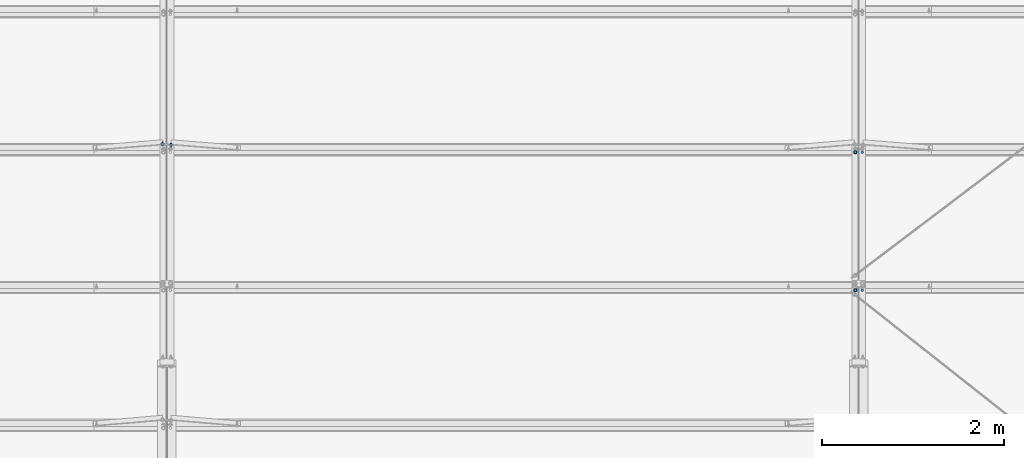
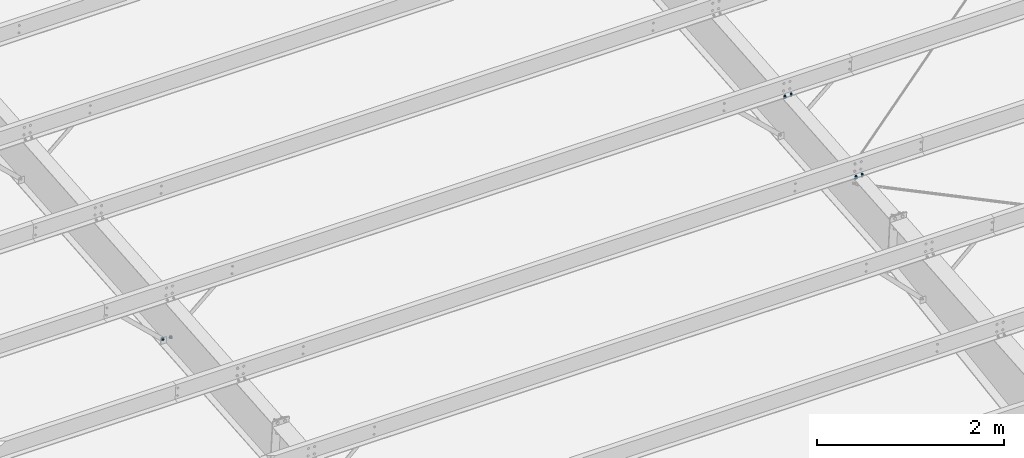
# One storey, part 138 of 185: 6 mechanical fasteners, 4 elements without a shape of their own.
"""IFC2X3 building model written with IfcOpenShell, lengths in millimetres."""

from ifc_helpers import new_model, si_unit, frame, origin_with_axes, origin_2d_with_axis, place, context, subcontext, project, spatial, polyline, circle, outline, extrude, source, transform, mapped, material, type_object, element, aggregate, save


model = new_model("IFC2X3")

# Units and contexts
model_context = context("Model", 3, precision=1e-05, world=origin_with_axes())
body_context = subcontext(model_context, "Body", "Model", "MODEL_VIEW")
ifc_project = project(units=[si_unit("LENGTHUNIT", "METRE", prefix="MILLI"), si_unit("AREAUNIT", "SQUARE_METRE"), si_unit("VOLUMEUNIT", "CUBIC_METRE"), si_unit("MASSUNIT", "GRAM", prefix="KILO"), si_unit("TIMEUNIT", "SECOND"), si_unit("PLANEANGLEUNIT", "RADIAN"), si_unit("SOLIDANGLEUNIT", "STERADIAN"), si_unit("THERMODYNAMICTEMPERATUREUNIT", "DEGREE_CELSIUS"), si_unit("LUMINOUSINTENSITYUNIT", "LUMEN")], contexts=[model_context])

# Site, building, storey
site_placement = place(None, origin_with_axes())
site = spatial("IfcSite", under=ifc_project, at=site_placement, Name="Undefined", CompositionType="ELEMENT")
building_placement = place(site_placement, origin_with_axes())
building = spatial("IfcBuilding", under=site, at=building_placement, Name="Undefined", CompositionType="ELEMENT")
storey_placement = place(building_placement, origin_with_axes())
storey = spatial("IfcBuildingStorey", under=building, at=storey_placement, Name="Undefined", CompositionType="ELEMENT", Elevation=0.0)

# Assembly, mechanical fastener
assembly_1_placement = place(storey_placement, origin_with_axes())
assembly_1 = element("IfcElementAssembly", 1, at=assembly_1_placement, inside=storey, Name="Steel Assembly", AssemblyPlace="NOTDEFINED", PredefinedType="RIGID_FRAME")
ifc_material = material(Name="Undefined")
discrete_accessory_type = type_object("IfcDiscreteAccessoryType", Name="Bolt assembly")
shared_shape_1 = source(origin_with_axes(), body_context, "Body", "SweptSolid", [
    extrude(circle(Radius=7.14374971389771, at=origin_2d_with_axis()), frame((0.0, -1.59000001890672, 0.0), z_axis=(0.0, 1.0, 0.0), x_axis=(1.0, 0.0, 0.0)), (0.0, 0.0, 1.0), 1.7),
    extrude(outline(polyline([(10.9985221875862, 0.0), (5.4992610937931, 9.52499961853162), (-5.4992610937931, 9.52499961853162), (-10.9985221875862, 0.0), (-5.4992610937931, -9.52499961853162), (5.4992610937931, -9.52499961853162), (10.9985221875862, 0.0)])), frame((0.0, -15.0837496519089, 0.0), z_axis=(0.0, 1.0, 0.0), x_axis=(1.0, 0.0, 0.0)), (0.0, 0.0, 1.0), 9.5),
    extrude(circle(Radius=6.34999990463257, at=origin_2d_with_axis()), frame((0.0, -5.5587500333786, 0.0), z_axis=(0.0, 1.0, 0.0), x_axis=(1.0, 0.0, 0.0)), (0.0, 0.0, 1.0), 38.1),
    extrude(circle(Radius=13.4937496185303, at=origin_2d_with_axis()), frame((0.0, -5.5587500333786, 0.0), z_axis=(0.0, 1.0, 0.0), x_axis=(1.0, 0.0, 0.0)), (0.0, 0.0, 1.0), 4.0),
    extrude(circle(Radius=22.2250003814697, at=origin_2d_with_axis()), frame((0.0, 0.0, 0.0), z_axis=(0.0, 1.0, 0.0), x_axis=(1.0, 0.0, 0.0)), (0.0, 0.0, 1.0), 7.9),
    extrude(outline(polyline([(12.8316099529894, 0.0), (6.4158049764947, 11.1125001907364), (-6.4158049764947, 11.1125001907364), (-12.8316099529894, 0.0), (-6.4158049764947, -11.1125001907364), (6.4158049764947, -11.1125001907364), (12.8316099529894, 0.0)])), frame((0.0, 7.93750000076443, 0.0), z_axis=(0.0, 1.0, 0.0), x_axis=(1.0, 0.0, 0.0)), (0.0, 0.0, 1.0), 12.3),
])
mechanical_fastener_1_placement = place(assembly_1_placement, frame((22525.8744956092, 8167.66653030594, 6014.27804869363), z_axis=(0.697745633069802, 0.0594892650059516, -0.713871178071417), x_axis=(0.716345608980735, -0.0579446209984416, 0.695335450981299)))
mechanical_fastener_1 = element("IfcMechanicalFastener", 2, at=mechanical_fastener_1_placement, type_object=discrete_accessory_type, material=ifc_material, Name="Bolt assembly", NominalDiameter=12.6999998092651, NominalLength=38.0999984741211, context=body_context, shape_type="MappedRepresentation", body=[
    mapped(shared_shape_1, transform((0.0, 0.0, 0.0))),
])
aggregate(assembly_1, [mechanical_fastener_1])

assembly_2_placement = place(storey_placement, origin_with_axes())
assembly_2 = element("IfcElementAssembly", 3, at=assembly_2_placement, inside=storey, Name="Steel Assembly", AssemblyPlace="NOTDEFINED", PredefinedType="RIGID_FRAME")
shared_shape_2 = source(origin_with_axes(), body_context, "Body", "SweptSolid", [
    extrude(circle(Radius=7.14374971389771, at=origin_2d_with_axis()), frame((0.0, 0.0, 0.0), z_axis=(0.0, 1.0, 0.0), x_axis=(1.0, 0.0, 0.0)), (0.0, 0.0, 1.0), 1.7),
    extrude(outline(polyline([(10.9985221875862, 0.0), (5.4992610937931, 9.52499961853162), (-5.4992610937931, 9.52499961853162), (-10.9985221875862, 0.0), (-5.4992610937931, -9.52499961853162), (5.4992610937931, -9.52499961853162), (10.9985221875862, 0.0)])), frame((0.0, -13.4937496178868, 0.0), z_axis=(0.0, 1.0, 0.0), x_axis=(1.0, 0.0, 0.0)), (0.0, 0.0, 1.0), 9.5),
    extrude(circle(Radius=6.34999990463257, at=origin_2d_with_axis()), frame((0.0, -3.96874999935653, 0.0), z_axis=(0.0, 1.0, 0.0), x_axis=(1.0, 0.0, 0.0)), (0.0, 0.0, 1.0), 38.1),
    extrude(circle(Radius=13.4937496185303, at=origin_2d_with_axis()), frame((0.0, -3.96874999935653, 0.0), z_axis=(0.0, 1.0, 0.0), x_axis=(1.0, 0.0, 0.0)), (0.0, 0.0, 1.0), 4.0),
    extrude(circle(Radius=22.2250003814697, at=origin_2d_with_axis()), frame((0.0, 1.5900000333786, 0.0), z_axis=(0.0, 1.0, 0.0), x_axis=(1.0, 0.0, 0.0)), (0.0, 0.0, 1.0), 7.9),
    extrude(outline(polyline([(12.8316099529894, 0.0), (6.4158049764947, 11.1125001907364), (-6.4158049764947, 11.1125001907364), (-12.8316099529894, 0.0), (-6.4158049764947, -11.1125001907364), (6.4158049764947, -11.1125001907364), (12.8316099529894, 0.0)])), frame((0.0, 9.5275000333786, 0.0), z_axis=(0.0, 1.0, 0.0), x_axis=(1.0, 0.0, 0.0)), (0.0, 0.0, 1.0), 12.3),
])
mechanical_fastener_2_placement = place(assembly_2_placement, frame((22432.1255043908, 8167.66653030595, 6014.27804869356), z_axis=(-0.697745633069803, 0.0594892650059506, -0.713871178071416), x_axis=(-0.716345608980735, -0.0579446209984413, 0.6953354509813)))
mechanical_fastener_2 = element("IfcMechanicalFastener", 4, at=mechanical_fastener_2_placement, type_object=discrete_accessory_type, material=ifc_material, Name="Bolt assembly", NominalDiameter=12.6999998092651, NominalLength=38.0999984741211, context=body_context, shape_type="MappedRepresentation", body=[
    mapped(shared_shape_2, transform((0.0, 0.0, 0.0))),
])
aggregate(assembly_2, [mechanical_fastener_2])

# Assembly, mechanical fasteners
assembly_3_placement = place(storey_placement, origin_with_axes())
assembly_3 = element("IfcElementAssembly", 5, at=assembly_3_placement, inside=storey, Name="Steel Assembly", AssemblyPlace="NOTDEFINED", PredefinedType="RIGID_FRAME")
shared_shape_3 = source(origin_with_axes(), body_context, "Body", "SweptSolid", [
    extrude(circle(Radius=7.14374971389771, at=origin_2d_with_axis()), frame((0.0, -0.0238014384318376, 0.0), z_axis=(0.0, 1.0, 0.0), x_axis=(1.0, 0.0, 0.0)), (0.0, 0.0, 1.0), 8.0),
    extrude(circle(Radius=7.14374971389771, at=origin_2d_with_axis()), frame((0.0, -3.08000006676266, 0.0), z_axis=(0.0, 1.0, 0.0), x_axis=(1.0, 0.0, 0.0)), (0.0, 0.0, 1.0), 3.2),
    extrude(circle(Radius=7.14374971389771, at=origin_2d_with_axis()), frame((0.0, -3.08000006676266, 0.0), z_axis=(0.0, 1.0, 0.0), x_axis=(1.0, 0.0, 0.0)), (0.0, 0.0, 1.0), 3.2),
    extrude(outline(polyline([(12.8316099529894, 0.0), (6.4158049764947, 11.1125001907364), (-6.4158049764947, 11.1125001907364), (-12.8316099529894, 0.0), (-6.4158049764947, -11.1125001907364), (6.4158049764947, -11.1125001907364), (12.8316099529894, 0.0)])), frame((0.0, -15.08625183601, 0.0), z_axis=(0.0, 1.0, 0.0), x_axis=(1.0, 0.0, 0.0)), (0.0, 0.0, 1.0), 7.9),
    extrude(circle(Radius=6.34999990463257, at=origin_2d_with_axis()), frame((0.0, -7.14875006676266, 0.0), z_axis=(0.0, 1.0, 0.0), x_axis=(1.0, 0.0, 0.0)), (0.0, 0.0, 1.0), 50.8),
    extrude(circle(Radius=13.4937496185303, at=origin_2d_with_axis()), frame((0.0, -7.14875006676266, 0.0), z_axis=(0.0, 1.0, 0.0), x_axis=(1.0, 0.0, 0.0)), (0.0, 0.0, 1.0), 4.0),
    extrude(circle(Radius=22.2250003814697, at=origin_2d_with_axis()), frame((0.0, 7.95019856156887, 0.0), z_axis=(0.0, 1.0, 0.0), x_axis=(1.0, 0.0, 0.0)), (0.0, 0.0, 1.0), 7.9),
    extrude(outline(polyline([(12.8316099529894, 0.0), (6.4158049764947, 11.1125001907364), (-6.4158049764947, 11.1125001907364), (-12.8316099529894, 0.0), (-6.4158049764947, -11.1125001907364), (6.4158049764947, -11.1125001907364), (12.8316099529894, 0.0)])), frame((0.0, 15.8876985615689, 0.0), z_axis=(0.0, 1.0, 0.0), x_axis=(1.0, 0.0, 0.0)), (0.0, 0.0, 1.0), 12.3),
])
mechanical_fastener_3_placement = place(assembly_3_placement, frame((30060.9, 6564.74531362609, 6439.15777570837), z_axis=(1.0, 0.0, 0.0), x_axis=(0.0, -0.996545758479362, -0.0830454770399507)))
mechanical_fastener_3 = element("IfcMechanicalFastener", 6, at=mechanical_fastener_3_placement, type_object=discrete_accessory_type, material=ifc_material, Name="Bolt assembly", NominalDiameter=12.6999998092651, NominalLength=50.7999992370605, context=body_context, shape_type="MappedRepresentation", body=[
    mapped(shared_shape_3, transform((0.0, 0.0, 0.0))),
])
shared_shape_4 = source(origin_with_axes(), body_context, "Body", "SweptSolid", [
    extrude(circle(Radius=7.14374971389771, at=origin_2d_with_axis()), frame((0.0, -0.0238014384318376, 0.0), z_axis=(0.0, 1.0, 0.0), x_axis=(1.0, 0.0, 0.0)), (0.0, 0.0, 1.0), 8.0),
    extrude(circle(Radius=7.14374971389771, at=origin_2d_with_axis()), frame((0.0, -3.08000006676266, 0.0), z_axis=(0.0, 1.0, 0.0), x_axis=(1.0, 0.0, 0.0)), (0.0, 0.0, 1.0), 3.2),
    extrude(circle(Radius=7.14374971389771, at=origin_2d_with_axis()), frame((0.0, -3.08000006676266, 0.0), z_axis=(0.0, 1.0, 0.0), x_axis=(1.0, 0.0, 0.0)), (0.0, 0.0, 1.0), 3.2),
    extrude(outline(polyline([(12.8316099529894, 0.0), (6.4158049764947, 11.1125001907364), (-6.4158049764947, 11.1125001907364), (-12.8316099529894, 0.0), (-6.4158049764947, -11.1125001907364), (6.4158049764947, -11.1125001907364), (12.8316099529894, 0.0)])), frame((0.0, -15.08625183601, 0.0), z_axis=(0.0, 1.0, 0.0), x_axis=(1.0, 0.0, 0.0)), (0.0, 0.0, 1.0), 7.9),
    extrude(circle(Radius=6.34999990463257, at=origin_2d_with_axis()), frame((0.0, -7.14875006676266, 0.0), z_axis=(0.0, 1.0, 0.0), x_axis=(1.0, 0.0, 0.0)), (0.0, 0.0, 1.0), 50.8),
    extrude(circle(Radius=13.4937496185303, at=origin_2d_with_axis()), frame((0.0, -7.14875006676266, 0.0), z_axis=(0.0, 1.0, 0.0), x_axis=(1.0, 0.0, 0.0)), (0.0, 0.0, 1.0), 4.0),
    extrude(outline(polyline([(12.8316099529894, 0.0), (6.4158049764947, 11.1125001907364), (-6.4158049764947, 11.1125001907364), (-12.8316099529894, 0.0), (-6.4158049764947, -11.1125001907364), (6.4158049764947, -11.1125001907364), (12.8316099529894, 0.0)])), frame((0.0, 7.95019856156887, 0.0), z_axis=(0.0, 1.0, 0.0), x_axis=(1.0, 0.0, 0.0)), (0.0, 0.0, 1.0), 12.3),
])
mechanical_fastener_4_placement = place(assembly_3_placement, frame((30137.1, 6564.74531362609, 6439.15777570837), z_axis=(1.0, 0.0, 0.0), x_axis=(0.0, -0.996545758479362, -0.0830454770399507)))
mechanical_fastener_4 = element("IfcMechanicalFastener", 7, at=mechanical_fastener_4_placement, type_object=discrete_accessory_type, material=ifc_material, Name="Bolt assembly", NominalDiameter=12.6999998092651, NominalLength=50.7999992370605, context=body_context, shape_type="MappedRepresentation", body=[
    mapped(shared_shape_4, transform((0.0, 0.0, 0.0))),
])
aggregate(assembly_3, [mechanical_fastener_3, mechanical_fastener_4])

assembly_4_placement = place(storey_placement, origin_with_axes())
assembly_4 = element("IfcElementAssembly", 8, at=assembly_4_placement, inside=storey, Name="Steel Assembly", AssemblyPlace="NOTDEFINED", PredefinedType="RIGID_FRAME")
shared_shape_5 = source(origin_with_axes(), body_context, "Body", "SweptSolid", [
    extrude(circle(Radius=7.14374971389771, at=origin_2d_with_axis()), frame((0.0, -0.0238014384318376, 0.0), z_axis=(0.0, 1.0, 0.0), x_axis=(1.0, 0.0, 0.0)), (0.0, 0.0, 1.0), 8.0),
    extrude(circle(Radius=7.14374971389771, at=origin_2d_with_axis()), frame((0.0, -3.08000006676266, 0.0), z_axis=(0.0, 1.0, 0.0), x_axis=(1.0, 0.0, 0.0)), (0.0, 0.0, 1.0), 3.2),
    extrude(circle(Radius=7.14374971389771, at=origin_2d_with_axis()), frame((0.0, -3.08000006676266, 0.0), z_axis=(0.0, 1.0, 0.0), x_axis=(1.0, 0.0, 0.0)), (0.0, 0.0, 1.0), 3.2),
    extrude(outline(polyline([(10.9985221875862, 0.0), (5.4992610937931, 9.52499961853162), (-5.4992610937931, 9.52499961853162), (-10.9985221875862, 0.0), (-5.4992610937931, -9.52499961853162), (5.4992610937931, -9.52499961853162), (10.9985221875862, 0.0)])), frame((0.0, -16.6737496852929, 0.0), z_axis=(0.0, 1.0, 0.0), x_axis=(1.0, 0.0, 0.0)), (0.0, 0.0, 1.0), 9.5),
    extrude(circle(Radius=6.34999990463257, at=origin_2d_with_axis()), frame((0.0, -7.14875006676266, 0.0), z_axis=(0.0, 1.0, 0.0), x_axis=(1.0, 0.0, 0.0)), (0.0, 0.0, 1.0), 38.1),
    extrude(circle(Radius=13.4937496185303, at=origin_2d_with_axis()), frame((0.0, -7.14875006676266, 0.0), z_axis=(0.0, 1.0, 0.0), x_axis=(1.0, 0.0, 0.0)), (0.0, 0.0, 1.0), 4.0),
    extrude(circle(Radius=22.2250003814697, at=origin_2d_with_axis()), frame((0.0, 7.95019856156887, 0.0), z_axis=(0.0, 1.0, 0.0), x_axis=(1.0, 0.0, 0.0)), (0.0, 0.0, 1.0), 7.9),
    extrude(outline(polyline([(12.8316099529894, 0.0), (6.4158049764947, 11.1125001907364), (-6.4158049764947, 11.1125001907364), (-12.8316099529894, 0.0), (-6.4158049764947, -11.1125001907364), (6.4158049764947, -11.1125001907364), (12.8316099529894, 0.0)])), frame((0.0, 15.8876985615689, 0.0), z_axis=(0.0, 1.0, 0.0), x_axis=(1.0, 0.0, 0.0)), (0.0, 0.0, 1.0), 12.3),
])
mechanical_fastener_5_placement = place(assembly_4_placement, frame((30060.9, 8083.48104764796, 6565.71908714), z_axis=(1.0, 0.0, 0.0), x_axis=(0.0, -0.996545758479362, -0.0830454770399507)))
mechanical_fastener_5 = element("IfcMechanicalFastener", 9, at=mechanical_fastener_5_placement, type_object=discrete_accessory_type, material=ifc_material, Name="Bolt assembly", NominalDiameter=12.6999998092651, NominalLength=38.0999984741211, context=body_context, shape_type="MappedRepresentation", body=[
    mapped(shared_shape_5, transform((0.0, 0.0, 0.0))),
])
shared_shape_6 = source(origin_with_axes(), body_context, "Body", "SweptSolid", [
    extrude(circle(Radius=7.14374971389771, at=origin_2d_with_axis()), frame((0.0, -0.0238014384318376, 0.0), z_axis=(0.0, 1.0, 0.0), x_axis=(1.0, 0.0, 0.0)), (0.0, 0.0, 1.0), 8.0),
    extrude(circle(Radius=7.14374971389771, at=origin_2d_with_axis()), frame((0.0, -3.08000006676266, 0.0), z_axis=(0.0, 1.0, 0.0), x_axis=(1.0, 0.0, 0.0)), (0.0, 0.0, 1.0), 3.2),
    extrude(circle(Radius=7.14374971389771, at=origin_2d_with_axis()), frame((0.0, -3.08000006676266, 0.0), z_axis=(0.0, 1.0, 0.0), x_axis=(1.0, 0.0, 0.0)), (0.0, 0.0, 1.0), 3.2),
    extrude(outline(polyline([(10.9985221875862, 0.0), (5.4992610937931, 9.52499961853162), (-5.4992610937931, 9.52499961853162), (-10.9985221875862, 0.0), (-5.4992610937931, -9.52499961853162), (5.4992610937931, -9.52499961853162), (10.9985221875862, 0.0)])), frame((0.0, -16.6737496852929, 0.0), z_axis=(0.0, 1.0, 0.0), x_axis=(1.0, 0.0, 0.0)), (0.0, 0.0, 1.0), 9.5),
    extrude(circle(Radius=6.34999990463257, at=origin_2d_with_axis()), frame((0.0, -7.14875006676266, 0.0), z_axis=(0.0, 1.0, 0.0), x_axis=(1.0, 0.0, 0.0)), (0.0, 0.0, 1.0), 38.1),
    extrude(circle(Radius=13.4937496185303, at=origin_2d_with_axis()), frame((0.0, -7.14875006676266, 0.0), z_axis=(0.0, 1.0, 0.0), x_axis=(1.0, 0.0, 0.0)), (0.0, 0.0, 1.0), 4.0),
    extrude(outline(polyline([(12.8316099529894, 0.0), (6.4158049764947, 11.1125001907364), (-6.4158049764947, 11.1125001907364), (-12.8316099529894, 0.0), (-6.4158049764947, -11.1125001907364), (6.4158049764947, -11.1125001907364), (12.8316099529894, 0.0)])), frame((0.0, 7.95019856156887, 0.0), z_axis=(0.0, 1.0, 0.0), x_axis=(1.0, 0.0, 0.0)), (0.0, 0.0, 1.0), 12.3),
])
mechanical_fastener_6_placement = place(assembly_4_placement, frame((30137.1, 8083.48104764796, 6565.71908714), z_axis=(1.0, 0.0, 0.0), x_axis=(0.0, -0.996545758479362, -0.0830454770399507)))
mechanical_fastener_6 = element("IfcMechanicalFastener", 10, at=mechanical_fastener_6_placement, type_object=discrete_accessory_type, material=ifc_material, Name="Bolt assembly", NominalDiameter=12.6999998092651, NominalLength=38.0999984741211, context=body_context, shape_type="MappedRepresentation", body=[
    mapped(shared_shape_6, transform((0.0, 0.0, 0.0))),
])
aggregate(assembly_4, [mechanical_fastener_5, mechanical_fastener_6])

save(model, "model.ifc")
